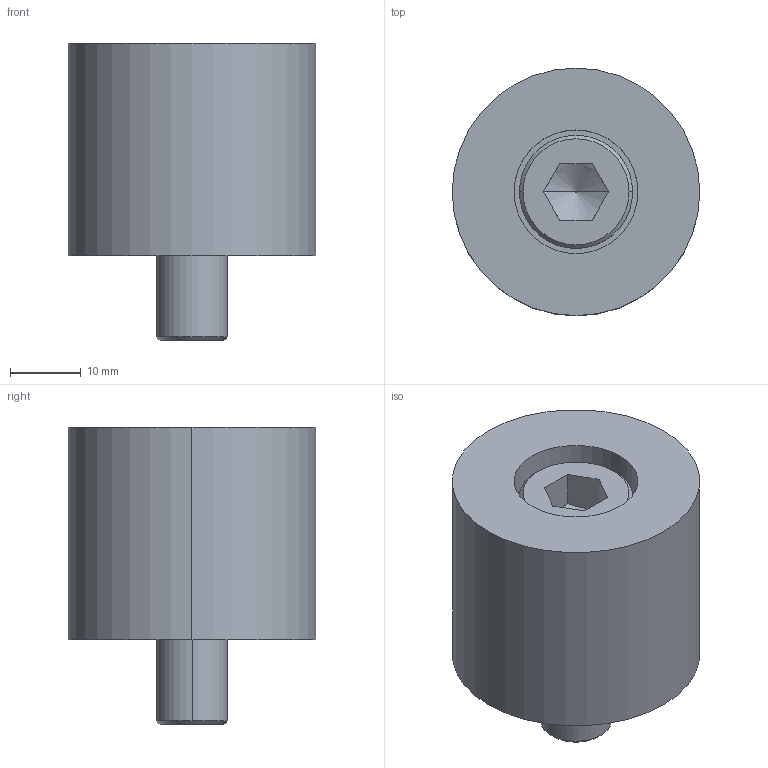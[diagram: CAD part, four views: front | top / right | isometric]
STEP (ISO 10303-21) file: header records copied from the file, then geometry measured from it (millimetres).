
FILE_DESCRIPTION (( 'STEP AP203' ), '1' );
FILE_NAME ('TPD35-30-1.STEP', '2024-06-05T22:33:08', ( '' ), ( '' ), 'SwSTEP 2.0', 'SolidWorks 2017', '' );
FILE_SCHEMA (( 'CONFIG_CONTROL_DESIGN' ));
Length unit declared in the file: millimetre
Products named in the file (3): TPD35-30-1.sldasm-Part-1; TPD35-30-1; TPD35-30-1.sldasm-Part-2
Assembly tree (2 placements, depth 2):
  TPD35-30-1
    TPD35-30-1.sldasm-Part-1
    TPD35-30-1.sldasm-Part-2
Bounding box: 35 x 35 x 42 mm (x, y, z)
Volume: 28437.9 mm3; surface area: 8280.5 mm2
Topology: 2 solids, 2 shells, 29 faces, 60 edges, 38 vertices
Faces by surface type: plane 13, cylinder 10, cone 6
Entity records: 1075 total; most frequent: DIRECTION 148, CARTESIAN_POINT 144, ORIENTED_EDGE 120, EDGE_CURVE 60, AXIS2_PLACEMENT_3D 60, VERTEX_POINT 38, EDGE_LOOP 34, ADVANCED_FACE 29
